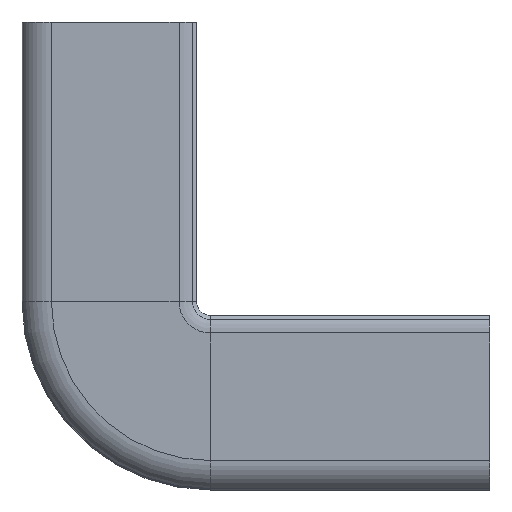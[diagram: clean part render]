
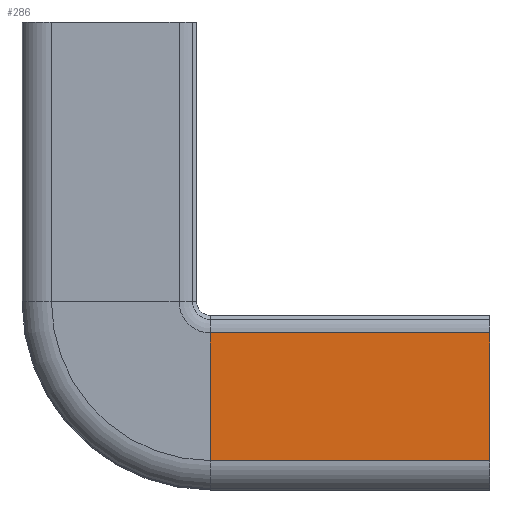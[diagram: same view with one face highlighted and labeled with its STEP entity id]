
A CAD part, left-side view. The second image highlights one B-rep face of the part: STEP entity #286.
In plain terms, the highlighted planar face has unit normal (-1, 0, 0).
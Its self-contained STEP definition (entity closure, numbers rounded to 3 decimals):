
#117 = CARTESIAN_POINT ( 'NONE',  ( -12.5, 7.55, -30. ) ) ;
#124 = FACE_OUTER_BOUND ( 'NONE', #520, .T. ) ;
#278 = PLANE ( 'NONE',  #2094 ) ;
#286 = ADVANCED_FACE ( 'NONE', ( #124 ), #278, .F. ) ;
#520 = EDGE_LOOP ( 'NONE', ( #940, #1391, #1949, #3153 ) ) ;
#540 = EDGE_CURVE ( 'NONE', #2901, #1415, #1455, .T. ) ;
#709 = EDGE_CURVE ( 'NONE', #2897, #2201, #1077, .T. ) ;
#813 = CARTESIAN_POINT ( 'NONE',  ( -12.5, 7.55, -30. ) ) ;
#814 = CARTESIAN_POINT ( 'NONE',  ( -12.5, -19.15, -21.161 ) ) ;
#940 = ORIENTED_EDGE ( 'NONE', *, *, #1387, .T. ) ;
#1077 = LINE ( 'NONE', #117, #1116 ) ;
#1116 = VECTOR ( 'NONE', #3178, 1000. ) ;
#1257 = DIRECTION ( 'NONE',  ( 0., -1., 0. ) ) ;
#1387 = EDGE_CURVE ( 'NONE', #2897, #2901, #1781, .T. ) ;
#1391 = ORIENTED_EDGE ( 'NONE', *, *, #540, .T. ) ;
#1404 = EDGE_CURVE ( 'NONE', #2201, #1415, #2631, .T. ) ;
#1415 = VERTEX_POINT ( 'NONE', #2284 ) ;
#1455 = LINE ( 'NONE', #814, #2956 ) ;
#1652 = CARTESIAN_POINT ( 'NONE',  ( -12.5, 7.55, -42.19 ) ) ;
#1781 = LINE ( 'NONE', #2520, #2540 ) ;
#1807 = DIRECTION ( 'NONE',  ( 0., 0., -1. ) ) ;
#1849 = DIRECTION ( 'NONE',  ( 0., 0., 1. ) ) ;
#1894 = CARTESIAN_POINT ( 'NONE',  ( -12.5, -19.15, -42.19 ) ) ;
#1949 = ORIENTED_EDGE ( 'NONE', *, *, #1404, .F. ) ;
#2094 = AXIS2_PLACEMENT_3D ( 'NONE', #813, #2592, #1807 ) ;
#2201 = VERTEX_POINT ( 'NONE', #2692 ) ;
#2284 = CARTESIAN_POINT ( 'NONE',  ( -12.5, -19.15, -30. ) ) ;
#2289 = DIRECTION ( 'NONE',  ( 0., -1., 0. ) ) ;
#2520 = CARTESIAN_POINT ( 'NONE',  ( -12.5, 7.55, -42.19 ) ) ;
#2540 = VECTOR ( 'NONE', #2289, 1000. ) ;
#2546 = CARTESIAN_POINT ( 'NONE',  ( -12.5, 7.55, -30. ) ) ;
#2592 = DIRECTION ( 'NONE',  ( 1., 0., 0. ) ) ;
#2631 = LINE ( 'NONE', #2546, #3220 ) ;
#2692 = CARTESIAN_POINT ( 'NONE',  ( -12.5, 7.55, -30. ) ) ;
#2897 = VERTEX_POINT ( 'NONE', #1652 ) ;
#2901 = VERTEX_POINT ( 'NONE', #1894 ) ;
#2956 = VECTOR ( 'NONE', #1849, 1000. ) ;
#3153 = ORIENTED_EDGE ( 'NONE', *, *, #709, .F. ) ;
#3178 = DIRECTION ( 'NONE',  ( 0., 0., 1. ) ) ;
#3220 = VECTOR ( 'NONE', #1257, 1000. ) ;
